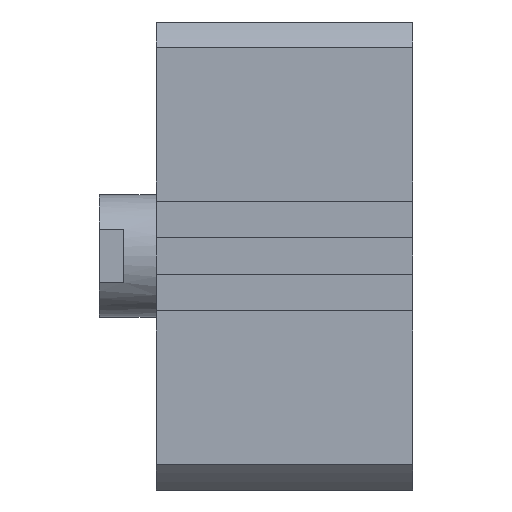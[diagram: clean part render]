
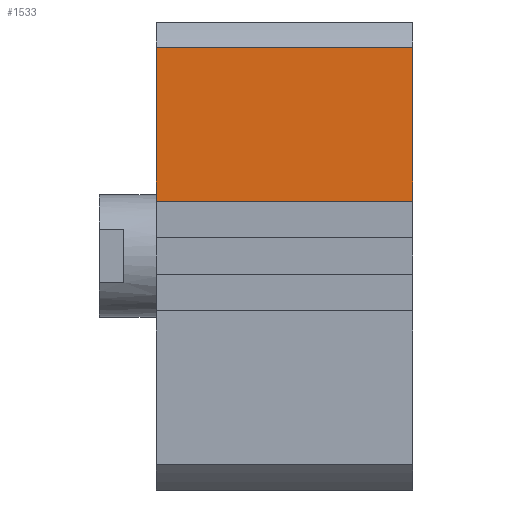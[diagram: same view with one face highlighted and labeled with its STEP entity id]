
A CAD part, left-side view. The second image highlights one B-rep face of the part: STEP entity #1533.
In plain terms, the highlighted planar face has unit normal (-1, 0, 0).
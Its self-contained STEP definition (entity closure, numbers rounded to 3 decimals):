
#15 = CARTESIAN_POINT ( 'NONE',  ( -57.5, -63., 13.5 ) ) ;
#35 = LINE ( 'NONE', #1971, #2408 ) ;
#165 = DIRECTION ( 'NONE',  ( 0., 0., 1. ) ) ;
#405 = AXIS2_PLACEMENT_3D ( 'NONE', #3219, #3178, #838 ) ;
#438 = CARTESIAN_POINT ( 'NONE',  ( -57.5, 0., 0. ) ) ;
#445 = FACE_OUTER_BOUND ( 'NONE', #2406, .T. ) ;
#498 = DIRECTION ( 'NONE',  ( 0., 1., 0. ) ) ;
#600 = LINE ( 'NONE', #15, #961 ) ;
#809 = ORIENTED_EDGE ( 'NONE', *, *, #3271, .T. ) ;
#815 = VERTEX_POINT ( 'NONE', #2069 ) ;
#836 = VERTEX_POINT ( 'NONE', #2327 ) ;
#838 = DIRECTION ( 'NONE',  ( 0., 0., 1. ) ) ;
#961 = VECTOR ( 'NONE', #498, 1000. ) ;
#1084 = LINE ( 'NONE', #438, #1121 ) ;
#1121 = VECTOR ( 'NONE', #165, 1000. ) ;
#1336 = CARTESIAN_POINT ( 'NONE',  ( -57.5, 0., 51.213 ) ) ;
#1351 = LINE ( 'NONE', #1370, #3095 ) ;
#1370 = CARTESIAN_POINT ( 'NONE',  ( -57.5, -63., 0. ) ) ;
#1502 = EDGE_CURVE ( 'NONE', #815, #2871, #1351, .T. ) ;
#1533 = ADVANCED_FACE ( 'NONE', ( #445 ), #2919, .T. ) ;
#1594 = EDGE_CURVE ( 'NONE', #836, #3116, #1084, .T. ) ;
#1716 = DIRECTION ( 'NONE',  ( 0., 1., 0. ) ) ;
#1767 = CARTESIAN_POINT ( 'NONE',  ( -57.5, -63., 51.213 ) ) ;
#1971 = CARTESIAN_POINT ( 'NONE',  ( -57.5, -63., 51.213 ) ) ;
#2069 = CARTESIAN_POINT ( 'NONE',  ( -57.5, -63., 13.5 ) ) ;
#2317 = EDGE_CURVE ( 'NONE', #815, #836, #600, .T. ) ;
#2327 = CARTESIAN_POINT ( 'NONE',  ( -57.5, 0., 13.5 ) ) ;
#2395 = DIRECTION ( 'NONE',  ( 0., 0., 1. ) ) ;
#2406 = EDGE_LOOP ( 'NONE', ( #3145, #2589, #3123, #809 ) ) ;
#2408 = VECTOR ( 'NONE', #1716, 1000. ) ;
#2589 = ORIENTED_EDGE ( 'NONE', *, *, #2317, .F. ) ;
#2871 = VERTEX_POINT ( 'NONE', #1767 ) ;
#2919 = PLANE ( 'NONE',  #405 ) ;
#3095 = VECTOR ( 'NONE', #2395, 1000. ) ;
#3116 = VERTEX_POINT ( 'NONE', #1336 ) ;
#3123 = ORIENTED_EDGE ( 'NONE', *, *, #1502, .T. ) ;
#3145 = ORIENTED_EDGE ( 'NONE', *, *, #1594, .F. ) ;
#3178 = DIRECTION ( 'NONE',  ( -1., 0., 0. ) ) ;
#3219 = CARTESIAN_POINT ( 'NONE',  ( -57.5, -63., 0. ) ) ;
#3271 = EDGE_CURVE ( 'NONE', #2871, #3116, #35, .T. ) ;
